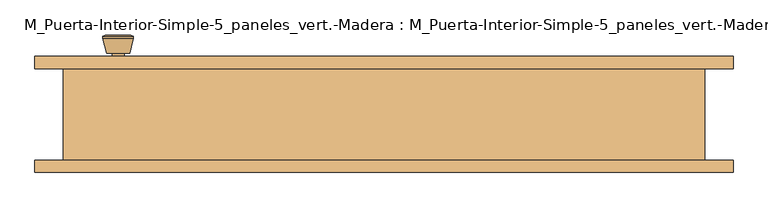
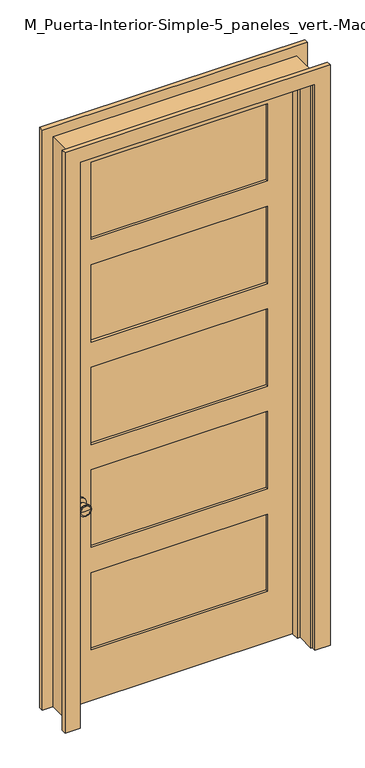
"""IFC4 building model written with IfcOpenShell, lengths in millimetres: door geometry, M_Puerta-Interior-Simple-5_paneles_vert.-Madera : M_Puerta-Interior-Simple-5_paneles_vert.-Madera."""

from ifc_helpers import new_model, si_unit, point, frame, frame_2d, origin, place, context, project, spatial, polyline, circle_curve, trimmed, segment, composite_curve, outline, extrude, faceted_brep, source, transform, mapped, element, save
from ifc_brep_helpers import plane_surface, cylinder_surface, revolved_surface, advanced_brep


def m_puerta_interior_simple_5_paneles_vert_madera_m_puerta_cb21d540(model_context):
    return source(origin(), model_context, "Body", "SolidModel", [
        advanced_brep(
        [(-435.0, 30.825, 914.4), (-425.0, 30.825, 914.4), (-445.0, 30.825, 914.4), (-414.5241324, -18.175, 914.4), (-435.0, -18.175, 914.4), (-455.4758676, -18.175, 914.4), (-410.0, -16.3471319, 914.4), (-460.0, -16.3471319, 914.4), (-410.0, -12.8834537, 914.4), (-460.0, -12.8834537, 914.4), (-416.363764, 11.825, 914.4), (-453.636236, 11.825, 914.4), (-425.0, 11.825, 914.4), (-445.0, 11.825, 914.4)],
        [
            (0, 1),
            (1, 2, circle_curve(frame((-435.0, 30.825, 914.4), z_axis=(0.0, 1.0, 0.0), x_axis=(-1.0, 0.0, 0.0)), 10.0)),
            (2, 0),
            (2, 1, circle_curve(frame((-435.0, 30.825, 914.4), z_axis=(0.0, 1.0, 0.0), x_axis=(-1.0, 0.0, 0.0)), 10.0)),
            (3, 4),
            (4, 5),
            (5, 3, circle_curve(frame((-435.0, -18.175, 914.4), z_axis=(0.0, -1.0, 0.0), x_axis=(-1.0, 0.0, 0.0)), 20.4758676)),
            (3, 5, circle_curve(frame((-435.0, -18.175, 914.4), z_axis=(0.0, -1.0, 0.0), x_axis=(-1.0, 0.0, 0.0)), 20.4758676)),
            (6, 3),
            (5, 7),
            (7, 6, circle_curve(frame((-435.0, -16.3471319, 914.4), z_axis=(0.0, -1.0, 0.0), x_axis=(-1.0, 0.0, 0.0)), 25.0)),
            (6, 7, circle_curve(frame((-435.0, -16.3471319, 914.4), z_axis=(0.0, -1.0, 0.0), x_axis=(-1.0, 0.0, 0.0)), 25.0)),
            (8, 6),
            (7, 9),
            (9, 8, circle_curve(frame((-435.0, -12.8834537, 914.4), z_axis=(0.0, -1.0, 0.0), x_axis=(-1.0, 0.0, 0.0)), 25.0)),
            (8, 9, circle_curve(frame((-435.0, -12.8834537, 914.4), z_axis=(0.0, -1.0, 0.0), x_axis=(-1.0, 0.0, 0.0)), 25.0)),
            (10, 8),
            (9, 11),
            (11, 10, circle_curve(frame((-435.0, 11.825, 914.4), z_axis=(0.0, -1.0, 0.0), x_axis=(-1.0, 0.0, 0.0)), 18.636236)),
            (10, 11, circle_curve(frame((-435.0, 11.825, 914.4), z_axis=(0.0, -1.0, 0.0), x_axis=(-1.0, 0.0, 0.0)), 18.636236)),
            (12, 10),
            (11, 13),
            (13, 12, circle_curve(frame((-435.0, 11.825, 914.4), z_axis=(0.0, -1.0, 0.0), x_axis=(-1.0, 0.0, 0.0)), 10.0)),
            (12, 13, circle_curve(frame((-435.0, 11.825, 914.4), z_axis=(0.0, -1.0, 0.0), x_axis=(-1.0, 0.0, 0.0)), 10.0)),
            (1, 12),
            (13, 2),
        ],
        [
            plane_surface(frame((-435.0, 30.825, 914.4), z_axis=(0.0, 1.0, 0.0), x_axis=(-1.0, 0.0, 0.0))),
            plane_surface(frame((-435.0, -18.175, 914.4), z_axis=(0.0, -1.0, 0.0), x_axis=(-1.0, 0.0, 0.0))),
            revolved_surface(polyline([(-455.4758676, -18.175, 914.4), (-460.0, -16.3471319, 914.4)]), (-435.0, 30.825, 914.4), (0.0, 1.0, 0.0)),
            cylinder_surface(frame((-435.0, 30.825, 914.4), z_axis=(0.0, 1.0, 0.0), x_axis=(-1.0, 0.0, 0.0)), 25.0),
            revolved_surface(polyline([(-460.0, -12.8834537, 914.4), (-453.636236, 11.825, 914.4)]), (-435.0, 30.825, 914.4), (0.0, 1.0, 0.0)),
            plane_surface(frame((-435.0, 11.825, 914.4), z_axis=(0.0, 1.0, 0.0), x_axis=(-1.0, 0.0, 0.0))),
            cylinder_surface(frame((-435.0, 30.825, 914.4), z_axis=(0.0, 1.0, 0.0), x_axis=(-1.0, 0.0, 0.0)), 10.0),
        ],
        [
            (0, [[1, 2, 3]]),
            (0, [[-3, 4, -1]]),
            (1, [[5, 6, 7]]),
            (1, [[-6, -5, 8]]),
            (2, [[9, -7, 10, 11]]),
            (2, [[-10, -8, -9, 12]]),
            (3, [[13, -11, 14, 15]]),
            (3, [[-14, -12, -13, 16]]),
            (4, [[17, -15, 18, 19]]),
            (4, [[-18, -16, -17, 20]]),
            (5, [[21, -19, 22, 23]]),
            (5, [[-22, -20, -21, 24]]),
            (6, [[25, -23, 26, -2]]),
            (6, [[-26, -24, -25, -4]]),
        ],
    ),
        extrude(outline(composite_curve([segment(trimmed(circle_curve(frame_2d((914.4, -435.0)), 30.0), [point((914.4, -465.0))], [point((914.4, -405.0))], False, "CARTESIAN"), True, "CONTINUOUS"), segment(trimmed(circle_curve(frame_2d((914.4, -435.0)), 30.0), [point((914.4, -405.0))], [point((914.4, -465.0))], False, "CARTESIAN"), True, "CONTINUOUS")], self_intersect=False)), frame((0.0, 30.825, 0.0), z_axis=(0.0, 1.0, 0.0), x_axis=(0.0, 0.0, 1.0)), (0.0, 0.0, 1.0), 6.0),
        advanced_brep(
        [(-435.0, 77.825, 914.4), (-445.0, 77.825, 914.4), (-425.0, 77.825, 914.4), (-414.5241324, 126.825, 914.4), (-455.4758676, 126.825, 914.4), (-435.0, 126.825, 914.4), (-410.0, 124.9971319, 914.4), (-460.0, 124.9971319, 914.4), (-410.0, 121.5334537, 914.4), (-460.0, 121.5334537, 914.4), (-416.363764, 96.825, 914.4), (-453.636236, 96.825, 914.4), (-425.0, 96.825, 914.4), (-445.0, 96.825, 914.4)],
        [
            (0, 1),
            (1, 2, circle_curve(frame((-435.0, 77.825, 914.4), z_axis=(0.0, -1.0, 0.0), x_axis=(-1.0, 0.0, 0.0)), 10.0)),
            (2, 0),
            (2, 1, circle_curve(frame((-435.0, 77.825, 914.4), z_axis=(0.0, -1.0, 0.0), x_axis=(-1.0, 0.0, 0.0)), 10.0)),
            (3, 4, circle_curve(frame((-435.0, 126.825, 914.4), z_axis=(0.0, 1.0, 0.0), x_axis=(-1.0, 0.0, 0.0)), 20.4758676)),
            (4, 5),
            (5, 3),
            (4, 3, circle_curve(frame((-435.0, 126.825, 914.4), z_axis=(0.0, 1.0, 0.0), x_axis=(-1.0, 0.0, 0.0)), 20.4758676)),
            (6, 7, circle_curve(frame((-435.0, 124.9971319, 914.4), z_axis=(0.0, 1.0, 0.0), x_axis=(-1.0, 0.0, 0.0)), 25.0)),
            (7, 4),
            (3, 6),
            (7, 6, circle_curve(frame((-435.0, 124.9971319, 914.4), z_axis=(0.0, 1.0, 0.0), x_axis=(-1.0, 0.0, 0.0)), 25.0)),
            (8, 9, circle_curve(frame((-435.0, 121.5334537, 914.4), z_axis=(0.0, 1.0, 0.0), x_axis=(-1.0, 0.0, 0.0)), 25.0)),
            (9, 7),
            (6, 8),
            (9, 8, circle_curve(frame((-435.0, 121.5334537, 914.4), z_axis=(0.0, 1.0, 0.0), x_axis=(-1.0, 0.0, 0.0)), 25.0)),
            (10, 11, circle_curve(frame((-435.0, 96.825, 914.4), z_axis=(0.0, 1.0, 0.0), x_axis=(-1.0, 0.0, 0.0)), 18.636236)),
            (11, 9),
            (8, 10),
            (11, 10, circle_curve(frame((-435.0, 96.825, 914.4), z_axis=(0.0, 1.0, 0.0), x_axis=(-1.0, 0.0, 0.0)), 18.636236)),
            (12, 13, circle_curve(frame((-435.0, 96.825, 914.4), z_axis=(0.0, 1.0, 0.0), x_axis=(-1.0, 0.0, 0.0)), 10.0)),
            (13, 11),
            (10, 12),
            (13, 12, circle_curve(frame((-435.0, 96.825, 914.4), z_axis=(0.0, 1.0, 0.0), x_axis=(-1.0, 0.0, 0.0)), 10.0)),
            (1, 13),
            (12, 2),
        ],
        [
            plane_surface(frame((-435.0, 77.825, 914.4), z_axis=(0.0, -1.0, 0.0), x_axis=(-1.0, 0.0, 0.0))),
            plane_surface(frame((-435.0, 126.825, 914.4), z_axis=(0.0, 1.0, 0.0), x_axis=(-1.0, 0.0, 0.0))),
            revolved_surface(polyline([(-455.4758676, 126.825, 914.4), (-460.0, 124.9971319, 914.4)]), (-435.0, 77.825, 914.4), (0.0, -1.0, 0.0)),
            cylinder_surface(frame((-435.0, 77.825, 914.4), z_axis=(0.0, -1.0, 0.0), x_axis=(-1.0, 0.0, 0.0)), 25.0),
            revolved_surface(polyline([(-460.0, 121.5334537, 914.4), (-453.636236, 96.825, 914.4)]), (-435.0, 77.825, 914.4), (0.0, -1.0, 0.0)),
            plane_surface(frame((-435.0, 96.825, 914.4), z_axis=(0.0, -1.0, 0.0), x_axis=(-1.0, 0.0, 0.0))),
            cylinder_surface(frame((-435.0, 77.825, 914.4), z_axis=(0.0, -1.0, 0.0), x_axis=(-1.0, 0.0, 0.0)), 10.0),
        ],
        [
            (0, [[1, 2, 3]]),
            (0, [[-3, 4, -1]]),
            (1, [[5, 6, 7]]),
            (1, [[8, -7, -6]]),
            (2, [[9, 10, -5, 11]]),
            (2, [[12, -11, -8, -10]]),
            (3, [[13, 14, -9, 15]]),
            (3, [[16, -15, -12, -14]]),
            (4, [[17, 18, -13, 19]]),
            (4, [[20, -19, -16, -18]]),
            (5, [[21, 22, -17, 23]]),
            (5, [[24, -23, -20, -22]]),
            (6, [[-2, 25, -21, 26]]),
            (6, [[-4, -26, -24, -25]]),
        ],
    ),
        extrude(outline(composite_curve([segment(trimmed(circle_curve(frame_2d((914.4, -435.0)), 30.0), [point((914.4, -465.0))], [point((914.4, -405.0))], False, "CARTESIAN"), True, "CONTINUOUS"), segment(trimmed(circle_curve(frame_2d((914.4, -435.0)), 30.0), [point((914.4, -405.0))], [point((914.4, -465.0))], False, "CARTESIAN"), True, "CONTINUOUS")], self_intersect=False)), frame((0.0, 71.825, 0.0), z_axis=(0.0, 1.0, 0.0), x_axis=(0.0, 0.0, 1.0)), (0.0, 0.0, 1.0), 6.0),
        extrude(outline(polyline([(380.0, 48.4916667), (-380.0, 48.4916667), (-380.0, 60.1583333), (380.0, 60.1583333), (380.0, 48.4916667)])), frame((0.0, 0.0, 2098.0), z_axis=(0.0, 0.0, 1.0), x_axis=(1.0, 0.0, 0.0)), (0.0, 0.0, 1.0), 352.0),
        extrude(outline(polyline([(380.0, 48.4916667), (-380.0, 48.4916667), (-380.0, 60.1583333), (380.0, 60.1583333), (380.0, 48.4916667)])), frame((0.0, 0.0, 1631.0), z_axis=(0.0, 0.0, 1.0), x_axis=(1.0, 0.0, 0.0)), (0.0, 0.0, 1.0), 352.0),
        extrude(outline(polyline([(380.0, 48.4916667), (-380.0, 48.4916667), (-380.0, 60.1583333), (380.0, 60.1583333), (380.0, 48.4916667)])), frame((0.0, 0.0, 697.0), z_axis=(0.0, 0.0, 1.0), x_axis=(1.0, 0.0, 0.0)), (0.0, 0.0, 1.0), 352.0),
        extrude(outline(polyline([(380.0, 48.4916667), (-380.0, 48.4916667), (-380.0, 60.1583333), (380.0, 60.1583333), (380.0, 48.4916667)])), frame((0.0, 0.0, 230.0), z_axis=(0.0, 0.0, 1.0), x_axis=(1.0, 0.0, 0.0)), (0.0, 0.0, 1.0), 352.0),
        extrude(outline(polyline([(380.0, 48.4916667), (-380.0, 48.4916667), (-380.0, 60.1583333), (380.0, 60.1583333), (380.0, 48.4916667)])), frame((0.0, 0.0, 1164.0), z_axis=(0.0, 0.0, 1.0), x_axis=(1.0, 0.0, 0.0)), (0.0, 0.0, 1.0), 352.0),
        extrude(outline(polyline([(2570.0, -500.0), (0.0, -500.0), (0.0, 500.0), (2570.0, 500.0), (2570.0, -500.0)]), holes=[polyline([(2450.0, -380.0), (2450.0, 380.0), (2098.0, 380.0), (2098.0, -380.0), (2450.0, -380.0)]), polyline([(582.0, -380.0), (582.0, 380.0), (230.0, 380.0), (230.0, -380.0), (582.0, -380.0)]), polyline([(1516.0, -380.0), (1516.0, 380.0), (1164.0, 380.0), (1164.0, -380.0), (1516.0, -380.0)]), polyline([(1983.0, -380.0), (1983.0, 380.0), (1631.0, 380.0), (1631.0, -380.0), (1983.0, -380.0)]), polyline([(1049.0, -380.0), (1049.0, 380.0), (697.0, 380.0), (697.0, -380.0), (1049.0, -380.0)])]), frame((0.0, 36.825, 0.0), z_axis=(0.0, 1.0, 0.0), x_axis=(0.0, 0.0, 1.0)), (0.0, 0.0, 1.0), 35.0),
        faceted_brep([(525.0, 71.825, 0.0), (525.0, -78.175, 0.0), (500.0, -78.175, 0.0), (500.0, 1.9, 0.0), (487.3, 1.9, 0.0), (487.3, 36.825, 0.0), (500.0, 36.825, 0.0), (500.0, 71.825, 0.0), (525.0, 71.825, 2595.0), (525.0, -78.175, 2595.0), (-525.0, -78.175, 2595.0), (-525.0, -78.175, 0.0), (-500.0, -78.175, 0.0), (-500.0, -78.175, 2570.0), (500.0, -78.175, 2570.0), (500.0, 1.9, 2570.0), (-500.0, 1.9, 2570.0), (-500.0, 1.9, 0.0), (-487.3, 1.9, 0.0), (-487.3, 1.9, 2557.3), (487.3, 1.9, 2557.3), (487.3, 36.825, 2557.3), (-487.3, 36.825, 2557.3), (-487.3, 36.825, 0.0), (-500.0, 36.825, 0.0), (-500.0, 36.825, 2570.0), (500.0, 36.825, 2570.0), (500.0, 71.825, 2570.0), (-500.0, 71.825, 2570.0), (-500.0, 71.825, 0.0), (-525.0, 71.825, 0.0), (-525.0, 71.825, 2595.0)], [[[0, 1, 2, 3, 4, 5, 6, 7]], [[1, 0, 8, 9]], [[2, 1, 9, 10, 11, 12, 13, 14]], [[3, 2, 14, 15]], [[4, 3, 15, 16, 17, 18, 19, 20]], [[5, 4, 20, 21]], [[6, 5, 21, 22, 23, 24, 25, 26]], [[7, 6, 26, 27]], [[0, 7, 27, 28, 29, 30, 31, 8]], [[9, 8, 31, 10]], [[15, 14, 13, 16]], [[21, 20, 19, 22]], [[27, 26, 25, 28]], [[30, 29, 24, 23, 18, 17, 12, 11]], [[10, 31, 30, 11]], [[16, 13, 12, 17]], [[22, 19, 18, 23]], [[28, 25, 24, 29]]]),
        extrude(outline(polyline([(0.0, 506.35), (0.0, 571.35), (2641.35, 571.35), (2641.35, -571.35), (0.0, -571.35), (0.0, -506.35), (2576.35, -506.35), (2576.35, 506.35), (0.0, 506.35)])), frame((0.0, -98.175, 0.0), z_axis=(0.0, 1.0, 0.0), x_axis=(0.0, 0.0, 1.0)), (0.0, 0.0, 1.0), 20.0),
        extrude(outline(polyline([(0.0, 506.35), (0.0, 571.35), (2641.35, 571.35), (2641.35, -571.35), (0.0, -571.35), (0.0, -506.35), (2576.35, -506.35), (2576.35, 506.35), (0.0, 506.35)])), frame((0.0, 71.825, 0.0), z_axis=(0.0, 1.0, 0.0), x_axis=(0.0, 0.0, 1.0)), (0.0, 0.0, 1.0), 20.0),
    ])


if __name__ == "__main__":
    model = new_model("IFC4")
    model_context = context("Model", 3, world=origin())
    ifc_project = project(units=[si_unit("LENGTHUNIT", "METRE", prefix="MILLI")], contexts=[model_context])
    site = spatial("IfcSite", under=ifc_project)
    building = spatial("IfcBuilding", under=site)
    placement = place(None, origin())
    m_puerta_interior_simple_5_paneles_vert_madera_m_puerta_shape = m_puerta_interior_simple_5_paneles_vert_madera_m_puerta_cb21d540(model_context)
    element("IfcDoor", 1, ObjectType="M_Puerta-Interior-Simple-5_paneles_vert.-Madera : M_Puerta-Interior-Simple-5_paneles_vert.-Madera", at=placement, inside=building, context=model_context, shape_type="MappedRepresentation", body=[
        mapped(m_puerta_interior_simple_5_paneles_vert_madera_m_puerta_shape, transform((0.0, 0.0, 0.0), x_axis=(1.0, 0.0, 0.0), y_axis=(0.0, 1.0, 0.0), z_axis=(0.0, 0.0, 1.0))),
    ])
    save(model, "model.ifc")
